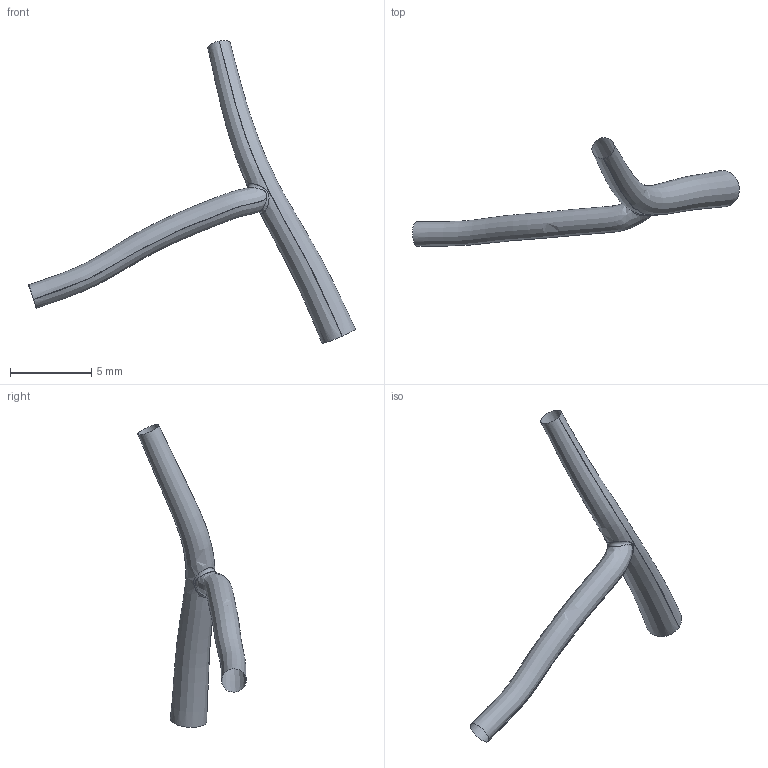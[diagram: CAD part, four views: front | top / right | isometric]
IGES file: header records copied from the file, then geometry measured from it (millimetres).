
Global section: file name: C:\Documents and Settings\Administrator\Desktop\FDA Bifurcation win\RawData_for_IGES\HRCA_Data\20000607.162451\IGES\20000607.162451.PDA.BIFUR.ES.igs; native system: Rhinoceros ( May 19 2006 ); preprocessor: Trout Lake IGES 012 May 19 2006; date: 100728.201334; units: centimetre
Bounding box: 20.06 x 6.65 x 18.59 mm (x, y, z)
Surface area: 189.4 mm2 (no closed solid volume)
Topology: 0 solids, 0 shells, 3 faces, 45 edges, 40 vertices
Faces by surface type: bspline 3
